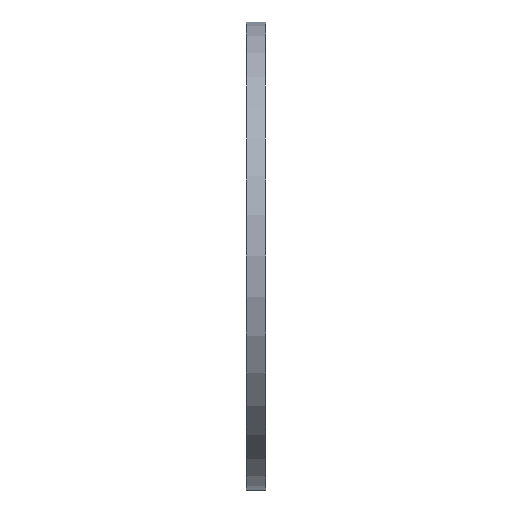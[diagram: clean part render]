
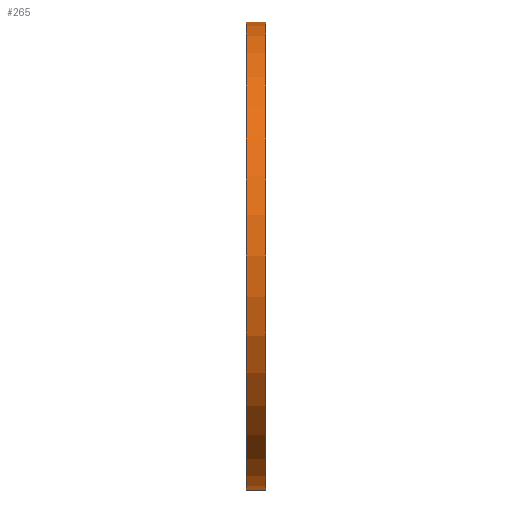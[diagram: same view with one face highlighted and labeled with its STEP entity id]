
A CAD part, left-side view. The second image highlights one B-rep face of the part: STEP entity #265.
In plain terms, the highlighted cylindrical face has radius 72 mm (diameter 144 mm), a partial arc.
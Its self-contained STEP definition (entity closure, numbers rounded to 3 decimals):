
#81 = DIRECTION ( 'NONE',  ( 0., 0., 1. ) ) ;
#107 = DIRECTION ( 'NONE',  ( 0., 0., 1. ) ) ;
#170 = LINE ( 'NONE', #173, #310 ) ;
#173 = CARTESIAN_POINT ( 'NONE',  ( 0., 6., 72. ) ) ;
#180 = VERTEX_POINT ( 'NONE', #804 ) ;
#212 = DIRECTION ( 'NONE',  ( 0., 1., 0. ) ) ;
#255 = CIRCLE ( 'NONE', #441, 72. ) ;
#265 = ADVANCED_FACE ( 'NONE', ( #437 ), #630, .T. ) ;
#280 = CARTESIAN_POINT ( 'NONE',  ( 0., 6., 0. ) ) ;
#303 = VERTEX_POINT ( 'NONE', #736 ) ;
#310 = VECTOR ( 'NONE', #388, 1000. ) ;
#328 = CARTESIAN_POINT ( 'NONE',  ( 0., 0., -72. ) ) ;
#388 = DIRECTION ( 'NONE',  ( 0., -1., 0. ) ) ;
#437 = FACE_OUTER_BOUND ( 'NONE', #835, .T. ) ;
#441 = AXIS2_PLACEMENT_3D ( 'NONE', #886, #212, #107 ) ;
#490 = EDGE_CURVE ( 'NONE', #180, #611, #255, .T. ) ;
#565 = ORIENTED_EDGE ( 'NONE', *, *, #1018, .T. ) ;
#573 = CARTESIAN_POINT ( 'NONE',  ( 0., 6., 72. ) ) ;
#611 = VERTEX_POINT ( 'NONE', #573 ) ;
#630 = CYLINDRICAL_SURFACE ( 'NONE', #1254, 72. ) ;
#672 = CIRCLE ( 'NONE', #1417, 72. ) ;
#725 = LINE ( 'NONE', #1027, #932 ) ;
#736 = CARTESIAN_POINT ( 'NONE',  ( 0., 0., 72. ) ) ;
#739 = CARTESIAN_POINT ( 'NONE',  ( 0., 0., 0. ) ) ;
#804 = CARTESIAN_POINT ( 'NONE',  ( 0., 6., -72. ) ) ;
#835 = EDGE_LOOP ( 'NONE', ( #1115, #977, #565, #1002 ) ) ;
#886 = CARTESIAN_POINT ( 'NONE',  ( 0., 6., 0. ) ) ;
#932 = VECTOR ( 'NONE', #943, 1000. ) ;
#933 = EDGE_CURVE ( 'NONE', #611, #303, #170, .T. ) ;
#943 = DIRECTION ( 'NONE',  ( 0., -1., 0. ) ) ;
#977 = ORIENTED_EDGE ( 'NONE', *, *, #490, .F. ) ;
#1002 = ORIENTED_EDGE ( 'NONE', *, *, #1088, .T. ) ;
#1018 = EDGE_CURVE ( 'NONE', #180, #1187, #725, .T. ) ;
#1027 = CARTESIAN_POINT ( 'NONE',  ( 0., 6., -72. ) ) ;
#1042 = DIRECTION ( 'NONE',  ( 0., -1., 0. ) ) ;
#1088 = EDGE_CURVE ( 'NONE', #1187, #303, #672, .T. ) ;
#1115 = ORIENTED_EDGE ( 'NONE', *, *, #933, .F. ) ;
#1187 = VERTEX_POINT ( 'NONE', #328 ) ;
#1254 = AXIS2_PLACEMENT_3D ( 'NONE', #280, #1042, #1384 ) ;
#1279 = DIRECTION ( 'NONE',  ( 0., 1., 0. ) ) ;
#1384 = DIRECTION ( 'NONE',  ( 0., 0., -1. ) ) ;
#1417 = AXIS2_PLACEMENT_3D ( 'NONE', #739, #1279, #81 ) ;
